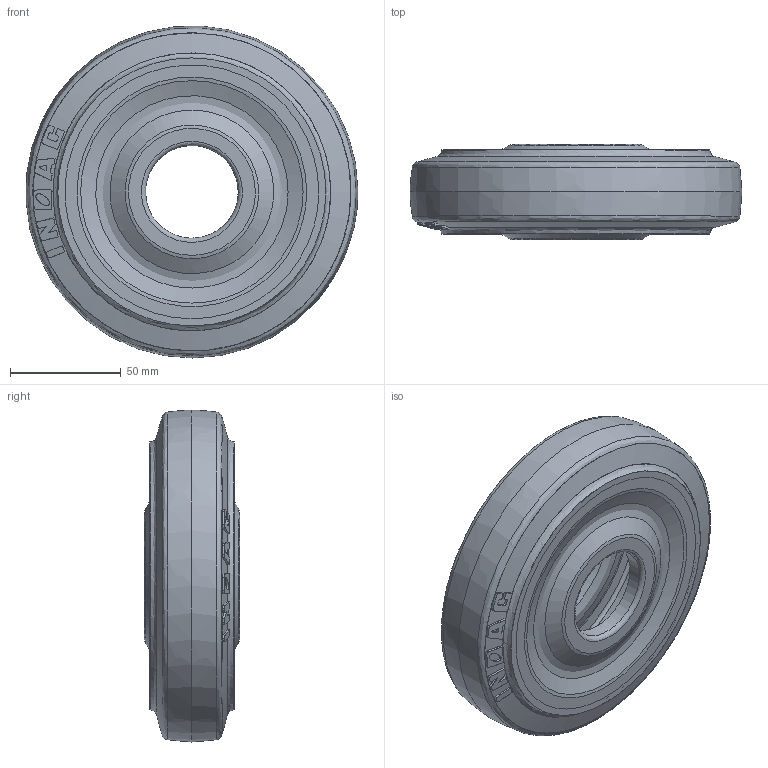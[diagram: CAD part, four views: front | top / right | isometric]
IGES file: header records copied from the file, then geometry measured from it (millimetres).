
Start section: JAMA-IS VERSION  1.0
Global section: file name: E:\tools-models\その他メーカー2\INOAC車輪\7月\GR-150W-ALL.igs; native system: CAM-TOOL; preprocessor: C3out Version 11.1.1.50212 (2015/02/12); author: NONE; organization: NONE; date: 220712.115851; units: millimetre
Bounding box: 149.87 x 43 x 149.88 mm (x, y, z)
Surface area: 126048.7 mm2 (no closed solid volume)
Topology: 0 solids, 0 shells, 153 faces, 1835 edges, 2414 vertices
Faces by surface type: bspline 153
